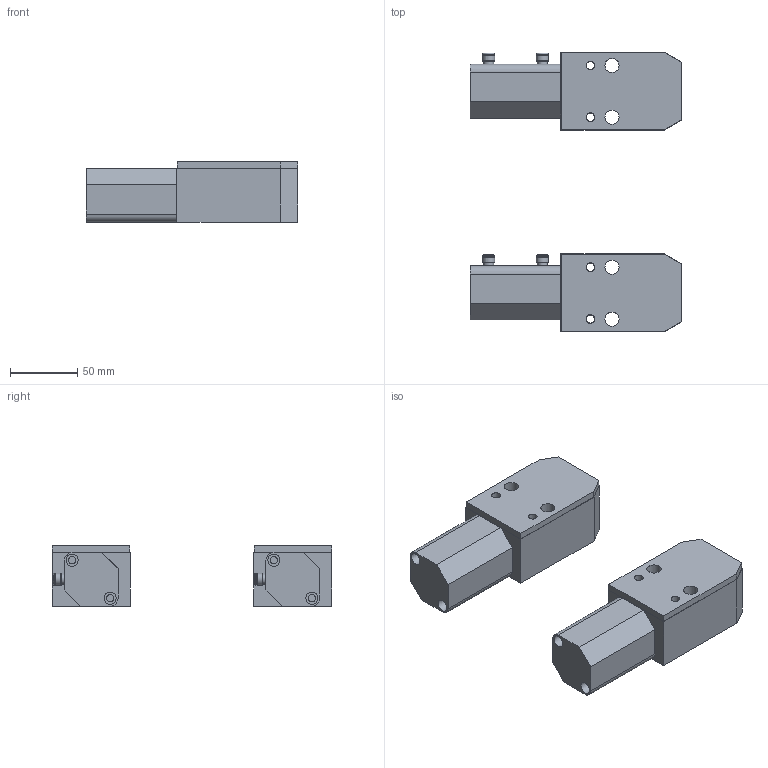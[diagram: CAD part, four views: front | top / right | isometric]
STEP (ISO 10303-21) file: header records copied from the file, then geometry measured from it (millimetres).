
FILE_DESCRIPTION(('STEP AP214'),'1');
FILE_NAME('1004.0025.stp','2020-05-22T14:12:53',(' '),(' '),'Spatial InterOp 3D',' ',' ');
FILE_SCHEMA(('AUTOMOTIVE_DESIGN { 1 0 10303 214 1 1 1 1 }'));
Length unit declared in the file: millimetre
Products named in the file (7): (PMS) 1004.0025; 3; 1; Assemblato; (PMI) 1004.0025; 5; 4
Assembly tree (6 placements, depth 3):
  Assemblato
    (PMS) 1004.0025
      3
      1
    (PMI) 1004.0025
      5
      4
Bounding box: 157.5 x 208 x 45 mm (x, y, z)
Volume: 563146.7 mm3; surface area: 102774.2 mm2
Topology: 4 solids, 4 shells, 740 faces, 1958 edges, 1304 vertices
Faces by surface type: extrusion 374, plane 268, cylinder 86, torus 12
Full cylindrical faces by diameter (mm): 5.5 x4, 6 x4, 6.5 x4, 7.5 x8, 9 x12, 10.5 x4, 17 x4, 25 x4, 29 x2
Entity records: 29112 total; most frequent: CARTESIAN_POINT 6181, ORIENTED_EDGE 3784, DIRECTION 2458, EDGE_CURVE 1892, VECTOR 1328, VERTEX_POINT 1296, B_SPLINE_CURVE_WITH_KNOTS 1122, LINE 954
